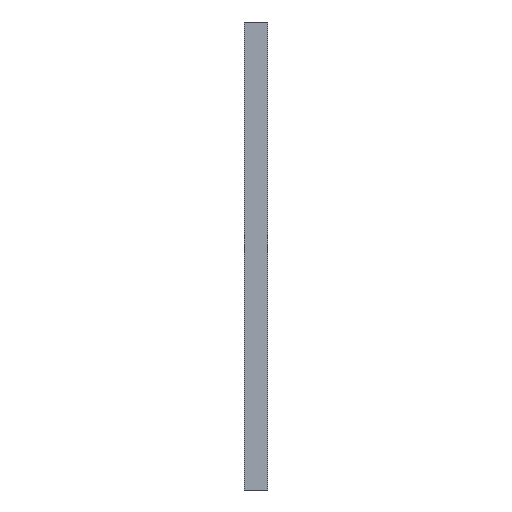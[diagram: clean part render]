
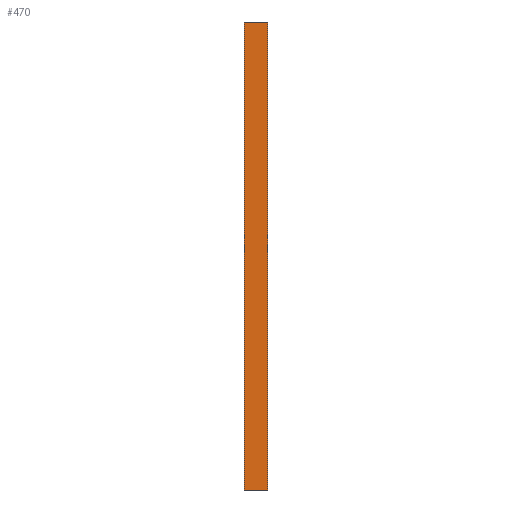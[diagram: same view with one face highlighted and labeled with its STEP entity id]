
A CAD part, front view. The second image highlights one B-rep face of the part: STEP entity #470.
In plain terms, the highlighted planar face has unit normal (0, -1, 0).
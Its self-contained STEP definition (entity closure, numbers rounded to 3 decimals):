
#9 = CARTESIAN_POINT ( 'NONE',  ( -75., 0., 1500. ) ) ;
#30 = CARTESIAN_POINT ( 'NONE',  ( -75., 0., 1500. ) ) ;
#201 = VECTOR ( 'NONE', #1738, 1000. ) ;
#261 = DIRECTION ( 'NONE',  ( 0., 0., -1. ) ) ;
#274 = VECTOR ( 'NONE', #1261, 1000. ) ;
#322 = VECTOR ( 'NONE', #261, 1000. ) ;
#391 = CARTESIAN_POINT ( 'NONE',  ( -75., 0., 1500. ) ) ;
#415 = CARTESIAN_POINT ( 'NONE',  ( 75., 0., -1500. ) ) ;
#470 = ADVANCED_FACE ( 'NONE', ( #1558 ), #1944, .F. ) ;
#485 = VERTEX_POINT ( 'NONE', #415 ) ;
#547 = ORIENTED_EDGE ( 'NONE', *, *, #2479, .T. ) ;
#801 = DIRECTION ( 'NONE',  ( 0., 0., -1. ) ) ;
#1131 = VECTOR ( 'NONE', #801, 1000. ) ;
#1200 = LINE ( 'NONE', #1983, #322 ) ;
#1261 = DIRECTION ( 'NONE',  ( 1., 0., 0. ) ) ;
#1291 = EDGE_CURVE ( 'NONE', #2391, #485, #1670, .T. ) ;
#1386 = CARTESIAN_POINT ( 'NONE',  ( -75., 0., 1500. ) ) ;
#1413 = CARTESIAN_POINT ( 'NONE',  ( 75., 0., 1500. ) ) ;
#1447 = EDGE_LOOP ( 'NONE', ( #1590, #2087, #1636, #547 ) ) ;
#1463 = EDGE_CURVE ( 'NONE', #2448, #1566, #2109, .T. ) ;
#1558 = FACE_OUTER_BOUND ( 'NONE', #1447, .T. ) ;
#1566 = VERTEX_POINT ( 'NONE', #1413 ) ;
#1590 = ORIENTED_EDGE ( 'NONE', *, *, #1291, .T. ) ;
#1622 = EDGE_CURVE ( 'NONE', #1566, #485, #1200, .T. ) ;
#1636 = ORIENTED_EDGE ( 'NONE', *, *, #1463, .F. ) ;
#1670 = LINE ( 'NONE', #1884, #274 ) ;
#1688 = AXIS2_PLACEMENT_3D ( 'NONE', #1386, #2151, #2166 ) ;
#1738 = DIRECTION ( 'NONE',  ( 1., 0., 0. ) ) ;
#1884 = CARTESIAN_POINT ( 'NONE',  ( -75., 0., -1500. ) ) ;
#1944 = PLANE ( 'NONE',  #1688 ) ;
#1983 = CARTESIAN_POINT ( 'NONE',  ( 75., 0., 1500. ) ) ;
#2068 = CARTESIAN_POINT ( 'NONE',  ( -75., 0., -1500. ) ) ;
#2087 = ORIENTED_EDGE ( 'NONE', *, *, #1622, .F. ) ;
#2109 = LINE ( 'NONE', #391, #201 ) ;
#2151 = DIRECTION ( 'NONE',  ( 0., 1., 0. ) ) ;
#2166 = DIRECTION ( 'NONE',  ( -1., 0., 0. ) ) ;
#2304 = LINE ( 'NONE', #30, #1131 ) ;
#2391 = VERTEX_POINT ( 'NONE', #2068 ) ;
#2448 = VERTEX_POINT ( 'NONE', #9 ) ;
#2479 = EDGE_CURVE ( 'NONE', #2448, #2391, #2304, .T. ) ;
